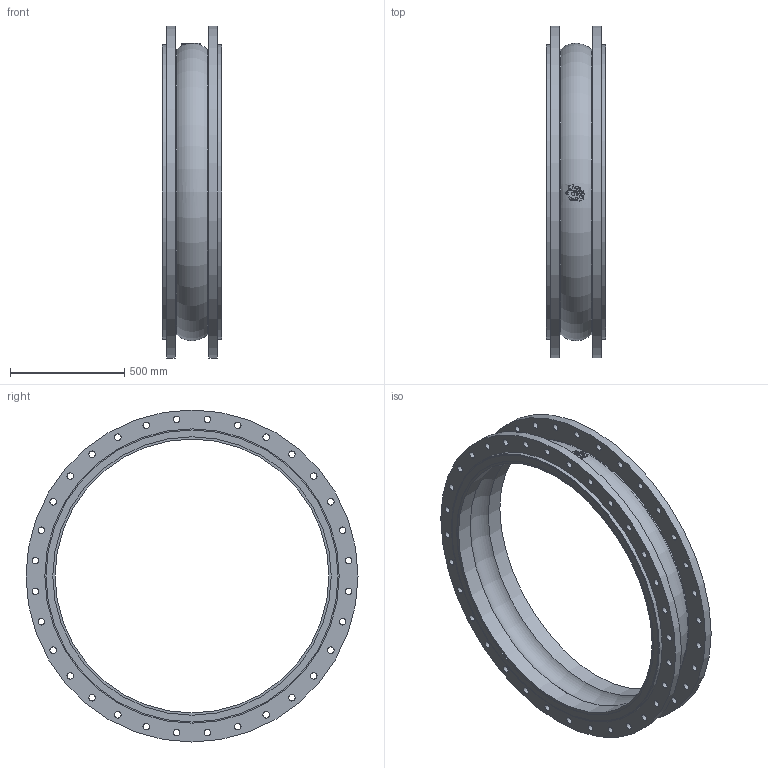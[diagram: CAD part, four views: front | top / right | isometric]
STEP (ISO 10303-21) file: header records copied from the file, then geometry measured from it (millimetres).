
FILE_DESCRIPTION(('STEP AP203'), '1');
FILE_NAME('3D_500-1200-EPDM-FF', '', ('UNSPECIFIED'), ('UNSPECIFIED'), 'C3D Converter', 'C3D Toolkit', '');
FILE_SCHEMA(('CONFIG_CONTROL_DESIGN'));
Length unit declared in the file: millimetre
Bounding box: 260 x 1455 x 1455 mm (x, y, z)
Volume: 58924320.3 mm3; surface area: 4271634.5 mm2
Topology: 1 solids, 1 shells, 915 faces, 2691 edges, 1800 vertices
Faces by surface type: plane 831, cylinder 76, torus 8
Full cylindrical faces by diameter (mm): 29 x64, 1200 x2, 1220 x2, 1250 x2, 1280 x2, 1290 x2, 1455 x2
Entity records: 39391 total; most frequent: CARTESIAN_POINT 9135, ORIENTED_EDGE 5226, DIRECTION 3808, EDGE_CURVE 2613, VERTEX_POINT 1800, LINE 1626, VECTOR 1626, EDGE_LOOP 1145
